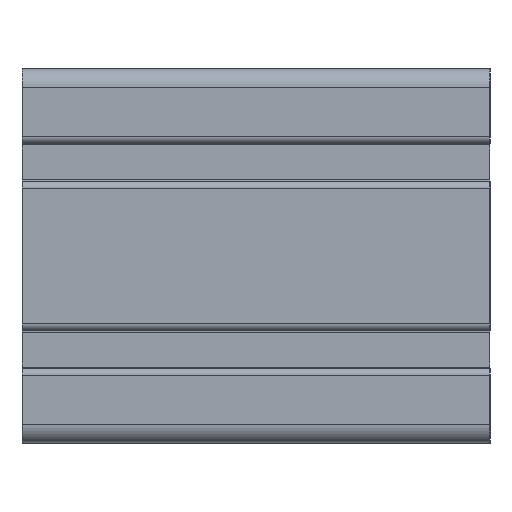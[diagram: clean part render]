
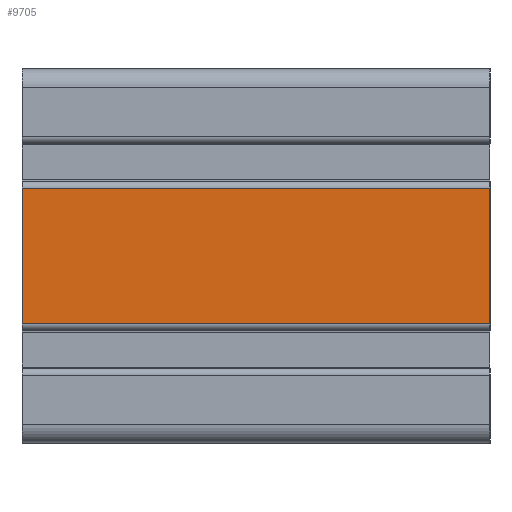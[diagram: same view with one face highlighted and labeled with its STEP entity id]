
A CAD part, left-side view. The second image highlights one B-rep face of the part: STEP entity #9705.
In plain terms, the highlighted planar face has unit normal (-1, 0, 0).
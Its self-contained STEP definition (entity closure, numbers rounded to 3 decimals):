
#256 = EDGE_CURVE ( 'NONE', #1224, #5379, #10505, .T. ) ;
#811 = CARTESIAN_POINT ( 'NONE',  ( -80., 50., -14.5 ) ) ;
#1224 = VERTEX_POINT ( 'NONE', #6978 ) ;
#1250 = DIRECTION ( 'NONE',  ( 0., -1., 0. ) ) ;
#2158 = DIRECTION ( 'NONE',  ( 0., 0., 1. ) ) ;
#2720 = EDGE_LOOP ( 'NONE', ( #16060, #17722, #5272, #15810 ) ) ;
#2953 = EDGE_CURVE ( 'NONE', #5379, #11568, #11588, .T. ) ;
#3283 = PLANE ( 'NONE',  #6972 ) ;
#3368 = DIRECTION ( 'NONE',  ( 1., 0., 0. ) ) ;
#4551 = DIRECTION ( 'NONE',  ( 0., 0., -1. ) ) ;
#4693 = VECTOR ( 'NONE', #1250, 1000. ) ;
#4695 = VECTOR ( 'NONE', #2158, 1000. ) ;
#4899 = FACE_OUTER_BOUND ( 'NONE', #2720, .T. ) ;
#5272 = ORIENTED_EDGE ( 'NONE', *, *, #15222, .F. ) ;
#5379 = VERTEX_POINT ( 'NONE', #16795 ) ;
#5949 = VECTOR ( 'NONE', #13024, 1000. ) ;
#6972 = AXIS2_PLACEMENT_3D ( 'NONE', #17128, #3368, #4551 ) ;
#6978 = CARTESIAN_POINT ( 'NONE',  ( -80., 50., -14.5 ) ) ;
#7429 = CARTESIAN_POINT ( 'NONE',  ( -80., -50., -14.5 ) ) ;
#8492 = LINE ( 'NONE', #13658, #4693 ) ;
#9705 = ADVANCED_FACE ( 'NONE', ( #4899 ), #3283, .F. ) ;
#10147 = DIRECTION ( 'NONE',  ( 0., 0., 1. ) ) ;
#10437 = EDGE_CURVE ( 'NONE', #11605, #11568, #8492, .T. ) ;
#10505 = LINE ( 'NONE', #811, #5949 ) ;
#10535 = VECTOR ( 'NONE', #10147, 1000. ) ;
#10684 = CARTESIAN_POINT ( 'NONE',  ( -80., -50., 14.5 ) ) ;
#11516 = LINE ( 'NONE', #14656, #4695 ) ;
#11568 = VERTEX_POINT ( 'NONE', #10684 ) ;
#11588 = LINE ( 'NONE', #7429, #10535 ) ;
#11605 = VERTEX_POINT ( 'NONE', #12306 ) ;
#12306 = CARTESIAN_POINT ( 'NONE',  ( -80., 50., 14.5 ) ) ;
#13024 = DIRECTION ( 'NONE',  ( 0., -1., 0. ) ) ;
#13658 = CARTESIAN_POINT ( 'NONE',  ( -80., 50., 14.5 ) ) ;
#14656 = CARTESIAN_POINT ( 'NONE',  ( -80., 50., -14.5 ) ) ;
#15222 = EDGE_CURVE ( 'NONE', #1224, #11605, #11516, .T. ) ;
#15810 = ORIENTED_EDGE ( 'NONE', *, *, #256, .T. ) ;
#16060 = ORIENTED_EDGE ( 'NONE', *, *, #2953, .T. ) ;
#16795 = CARTESIAN_POINT ( 'NONE',  ( -80., -50., -14.5 ) ) ;
#17128 = CARTESIAN_POINT ( 'NONE',  ( -80., 50., -14.5 ) ) ;
#17722 = ORIENTED_EDGE ( 'NONE', *, *, #10437, .F. ) ;
